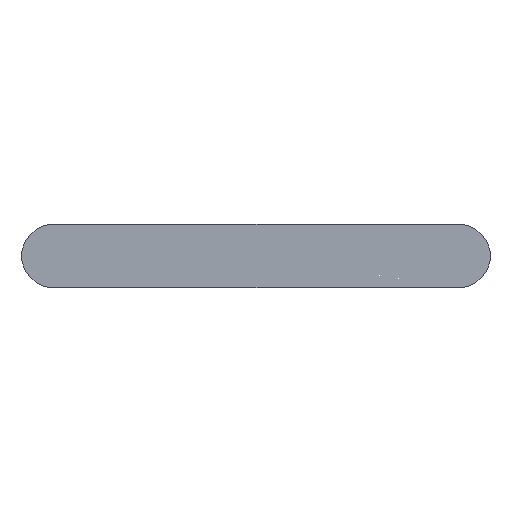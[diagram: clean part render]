
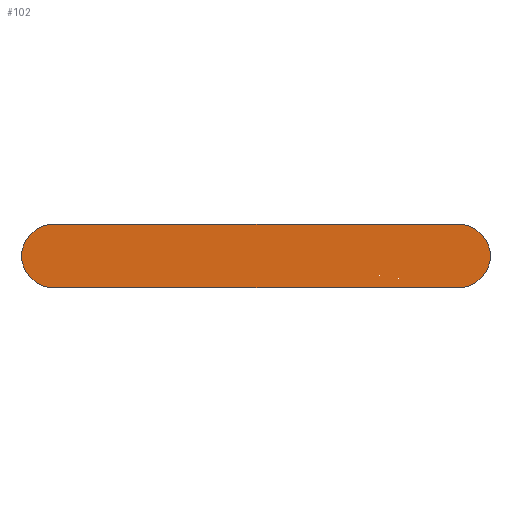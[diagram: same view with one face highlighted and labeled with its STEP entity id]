
A CAD part, front view. The second image highlights one B-rep face of the part: STEP entity #102.
In plain terms, the highlighted planar face has unit normal (0, -1, 0).
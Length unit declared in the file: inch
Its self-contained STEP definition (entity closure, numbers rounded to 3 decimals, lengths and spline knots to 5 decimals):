
#15=CIRCLE('',#119,0.0465);
#17=CIRCLE('',#123,0.0465);
#26=FACE_OUTER_BOUND('',#32,.T.);
#32=EDGE_LOOP('',(#89,#90,#91,#92));
#33=LINE('',#161,#41);
#38=LINE('',#175,#46);
#41=VECTOR('',#131,0.3937);
#46=VECTOR('',#144,0.3937);
#49=VERTEX_POINT('',#159);
#50=VERTEX_POINT('',#160);
#53=VERTEX_POINT('',#168);
#55=VERTEX_POINT('',#174);
#57=EDGE_CURVE('',#49,#50,#33,.T.);
#61=EDGE_CURVE('',#53,#49,#15,.T.);
#64=EDGE_CURVE('',#55,#53,#38,.T.);
#67=EDGE_CURVE('',#50,#55,#17,.T.);
#89=ORIENTED_EDGE('',*,*,#67,.F.);
#90=ORIENTED_EDGE('',*,*,#57,.F.);
#91=ORIENTED_EDGE('',*,*,#61,.F.);
#92=ORIENTED_EDGE('',*,*,#64,.F.);
#96=PLANE('',#126);
#102=ADVANCED_FACE('',(#26),#96,.F.);
#119=AXIS2_PLACEMENT_3D('',#169,#137,#138);
#123=AXIS2_PLACEMENT_3D('',#180,#149,#150);
#126=AXIS2_PLACEMENT_3D('',#183,#155,#156);
#131=DIRECTION('',(-1.,0.,0.));
#137=DIRECTION('center_axis',(0.,1.,0.));
#138=DIRECTION('ref_axis',(0.,0.,1.));
#144=DIRECTION('',(1.,0.,0.));
#149=DIRECTION('center_axis',(0.,1.,0.));
#150=DIRECTION('ref_axis',(0.,0.,-1.));
#155=DIRECTION('center_axis',(0.,1.,0.));
#156=DIRECTION('ref_axis',(1.,0.,0.));
#159=CARTESIAN_POINT('',(0.6355,0.,-0.0465));
#160=CARTESIAN_POINT('',(0.0465,0.,-0.0465));
#161=CARTESIAN_POINT('',(0.6355,0.,-0.0465));
#168=CARTESIAN_POINT('',(0.6355,0.,0.0465));
#169=CARTESIAN_POINT('Origin',(0.6355,0.,0.));
#174=CARTESIAN_POINT('',(0.0465,0.,0.0465));
#175=CARTESIAN_POINT('',(0.0465,0.,0.0465));
#180=CARTESIAN_POINT('Origin',(0.0465,0.,0.));
#183=CARTESIAN_POINT('Origin',(0.341,0.,0.));
